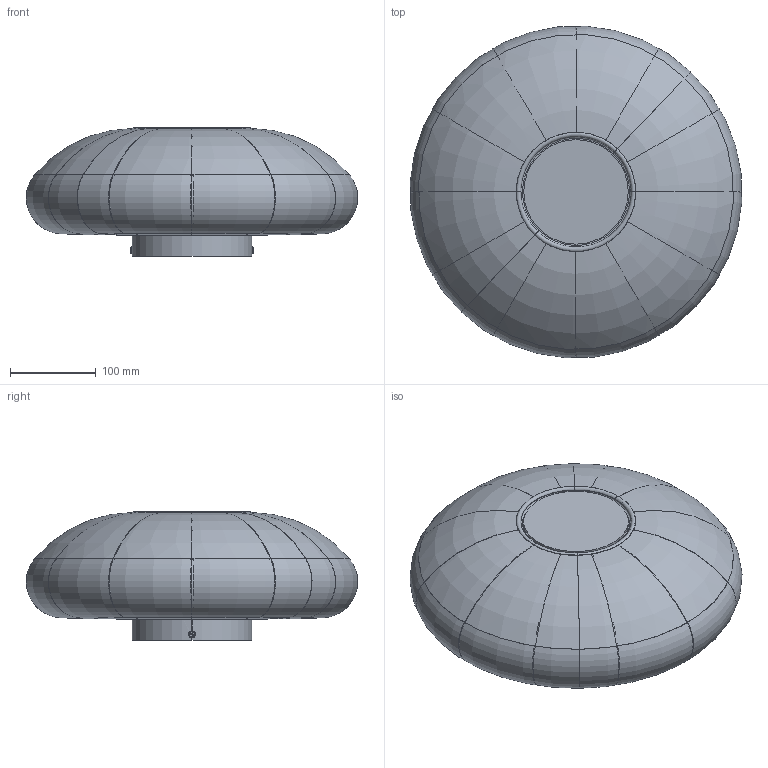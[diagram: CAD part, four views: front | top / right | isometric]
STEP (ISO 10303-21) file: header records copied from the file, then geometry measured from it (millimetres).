
FILE_DESCRIPTION (( 'STEP AP203' ), '1' );
FILE_NAME ('CA.W039.16.STEP', '2026-03-09T13:59:22', ( '' ), ( '' ), 'SwSTEP 2.0', 'SolidWorks 2013', '' );
FILE_SCHEMA (( 'CONFIG_CONTROL_DESIGN' ));
Length unit declared in the file: millimetre
Products named in the file (11): DIN7380 M3x6; dissipador AL. Ø61x3; KO178_EggDrop_Ø38 8W; AR118_FLORÓ Ø140x30_2xM4 sistema USA MODIFICAT; HOLDER_eggdrop Ø38; Armaço cala mitjana; CA.W039.16; Pantalla teixit Ø390x125; Led Suport Ø122; AG019_M4x8; GI455_Disc làser Ø121x3 3P M3x8_Alumini
Assembly tree (13 placements, depth 3):
  CA.W039.16
    Armaço cala mitjana
    AR118_FLORÓ Ø140x30_2xM4 sistema USA MODIFICAT
    Led Suport Ø122
      GI455_Disc làser Ø121x3 3P M3x8_Alumini
      HOLDER_eggdrop Ø38
      dissipador AL. Ø61x3
      KO178_EggDrop_Ø38 8W
    DIN7380 M3x6  x3
    AG019_M4x8  x2
    Pantalla teixit Ø390x125
Bounding box: 387.15 x 387.15 x 150.5 mm (x, y, z)
Volume: 310778 mm3; surface area: 775459.3 mm2
Topology: 14 solids, 14 shells, 408 faces, 1024 edges, 632 vertices
Faces by surface type: cylinder 136, torus 132, plane 108, cone 28, bspline 4
Entity records: 13489 total; most frequent: CARTESIAN_POINT 3514, DIRECTION 2028, ORIENTED_EDGE 1764, AXIS2_PLACEMENT_3D 902, EDGE_CURVE 882, CIRCLE 542, VERTEX_POINT 542, EDGE_LOOP 402
